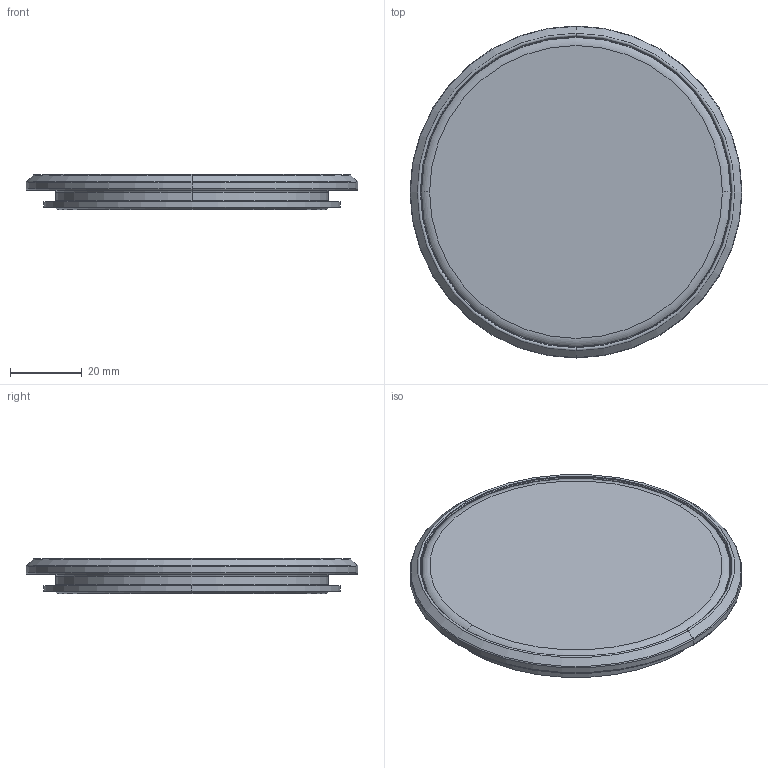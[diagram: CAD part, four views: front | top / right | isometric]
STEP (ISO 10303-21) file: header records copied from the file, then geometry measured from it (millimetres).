
FILE_DESCRIPTION (( 'STEP AP203' ), '1' );
FILE_NAME ('exas250ss6.STEP', '2014-12-22T10:15:10', ( '' ), ( '' ), 'SwSTEP 2.0', 'SolidWorks 2010', '' );
FILE_SCHEMA (( 'CONFIG_CONTROL_DESIGN' ));
Length unit declared in the file: inch
Products named in the file (5): exas250ss6; 89105181; 89105197; 87797762; 89112659
Assembly tree (4 placements, depth 3):
  exas250ss6
    87797762
    89112659
    89105181
      89105197
Bounding box: 92.56 x 92.56 x 9.78 mm (x, y, z)
Volume: 27690.3 mm3; surface area: 34141.1 mm2
Topology: 3 solids, 3 shells, 67 faces, 132 edges, 74 vertices
Faces by surface type: torus 32, cone 16, cylinder 10, plane 9
Entity records: 2281 total; most frequent: DIRECTION 388, CARTESIAN_POINT 281, ORIENTED_EDGE 264, AXIS2_PLACEMENT_3D 181, EDGE_CURVE 132, CIRCLE 106, VERTEX_POINT 74, EDGE_LOOP 74
